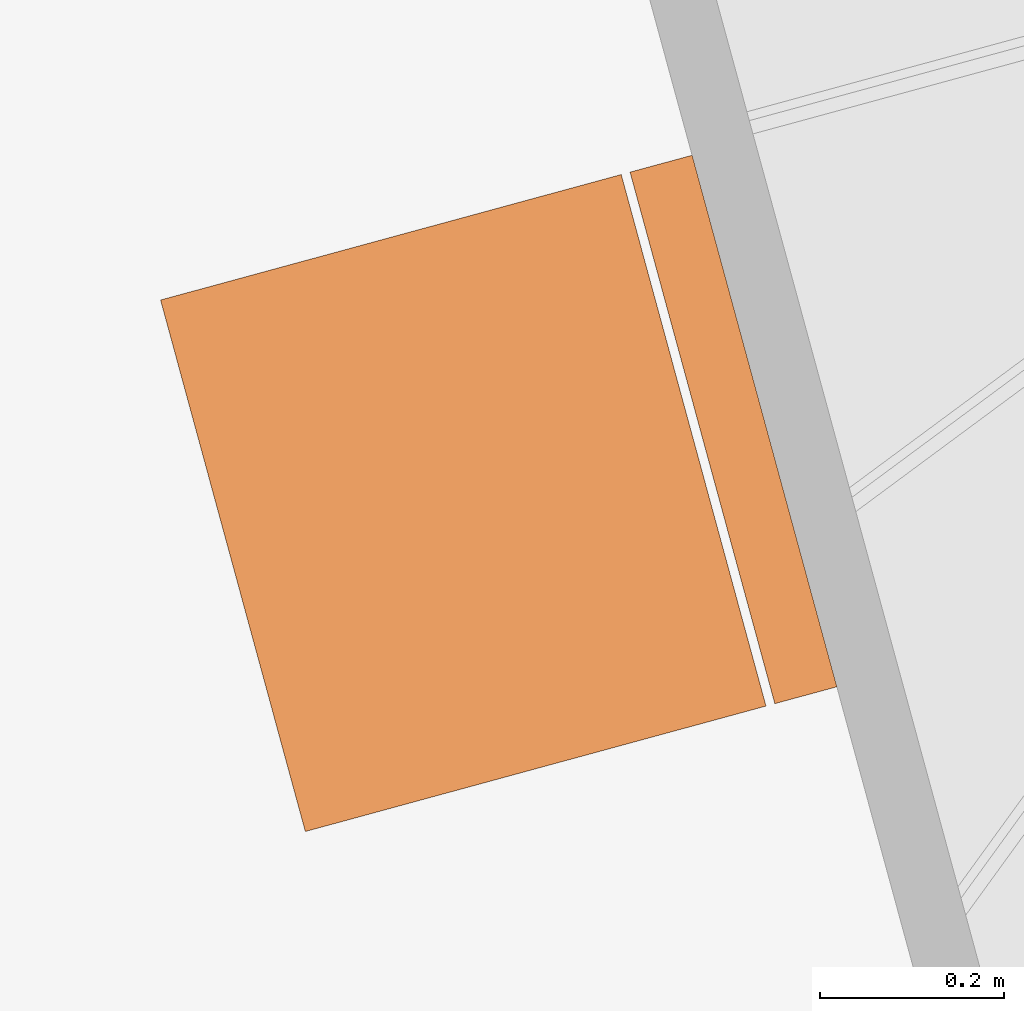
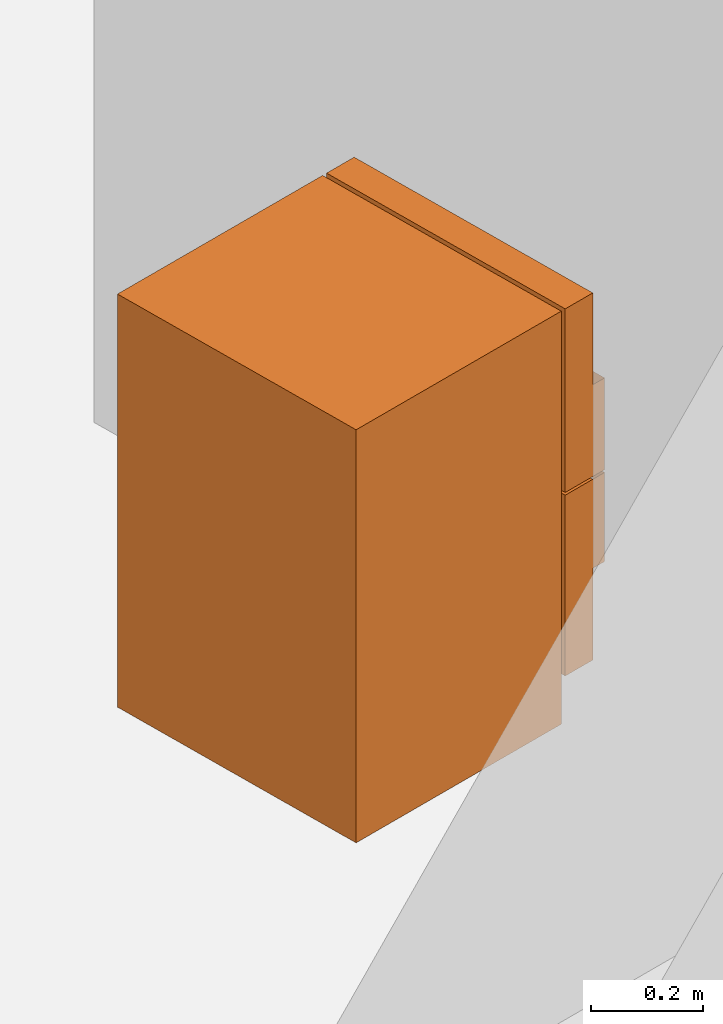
# One storey, part 181 of 195: 1 proxy.
"""IFC2X3 building model written with IfcOpenShell, lengths in metres."""

from ifc_helpers import new_model, entity, si_unit, converted_unit, derived_unit, money_unit, direction, frame, origin_with_axes, place, context, subcontext, project, spatial, open_shell, faceted_brep, surface_model, source, transform, mapped, type_object, element, save


model = new_model("IFC2X3")

# Units and contexts
model_context = context("Model", 3, precision=1e-05, world=origin_with_axes(), true_north=direction((0.0, 1.0)))
body_context = subcontext(model_context, "Body", "Model", "MODEL_VIEW")
ifc_project = project(units=[si_unit("LENGTHUNIT", "METRE"), si_unit("AREAUNIT", "SQUARE_METRE"), si_unit("VOLUMEUNIT", "CUBIC_METRE"), converted_unit("PLANEANGLEUNIT", "DEGREE", entity("IfcPlaneAngleMeasure", 0.0174532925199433), si_unit("PLANEANGLEUNIT", "RADIAN"), dimensions=[0, 0, 0, 0, 0, 0, 0]), money_unit("CHF"), converted_unit("TIMEUNIT", "Year", entity("IfcTimeMeasure", 31557600.0), si_unit("TIMEUNIT", "SECOND"), dimensions=[0, 0, 1, 0, 0, 0, 0]), si_unit("MASSUNIT", "GRAM", prefix="KILO"), si_unit("THERMODYNAMICTEMPERATUREUNIT", "DEGREE_CELSIUS"), si_unit("LUMINOUSINTENSITYUNIT", "LUMEN"), si_unit("ENERGYUNIT", "JOULE", prefix="MEGA"), derived_unit("THERMALCONDUCTANCEUNIT", [(si_unit("POWERUNIT", "WATT"), 1), (si_unit("LENGTHUNIT", "METRE"), -1), (si_unit("THERMODYNAMICTEMPERATUREUNIT", "KELVIN"), -1)]), derived_unit("SPECIFICHEATCAPACITYUNIT", [(si_unit("ENERGYUNIT", "JOULE"), 1), (si_unit("MASSUNIT", "GRAM", prefix="KILO"), -1), (si_unit("THERMODYNAMICTEMPERATUREUNIT", "KELVIN"), -1)]), derived_unit("MASSDENSITYUNIT", [(si_unit("MASSUNIT", "GRAM", prefix="KILO"), 1), (si_unit("VOLUMEUNIT", "CUBIC_METRE"), -1)])], contexts=[model_context])

# Site, building, storey
site_placement = place(None, origin_with_axes())
site = spatial("IfcSite", under=ifc_project, at=site_placement, Name="Site", CompositionType="ELEMENT")
building_placement = place(site_placement, origin_with_axes())
building = spatial("IfcBuilding", under=site, at=building_placement, Name="Bâtiment", CompositionType="ELEMENT")
storey_placement = place(building_placement, origin_with_axes())
storey = spatial("IfcBuildingStorey", under=building, at=storey_placement, Name="rdc", CompositionType="ELEMENT", Elevation=0.0)

# Proxy
building_element_proxy_type = type_object("IfcBuildingElementProxyType", PredefinedType="NOTDEFINED")
shared_shape = source(origin_with_axes(), body_context, "Body", "SurfaceModel", [
    faceted_brep([(0.0, 0.08, 0.1), (0.0, 0.08, 0.9), (-0.6, 0.08, 0.9), (-0.6, 0.08, 0.1), (0.0, 0.6, 0.1), (0.0, 0.6, 0.9), (-0.6, 0.6, 0.9), (-0.6, 0.6, 0.1)], [[[0, 1, 2, 3]], [[4, 5, 1, 0]], [[1, 5, 6, 2]], [[3, 2, 6, 7]], [[0, 3, 7, 4]], [[7, 6, 5, 4]]]),
    faceted_brep([(0.0, 0.08, 0.0), (0.0, 0.08, 0.1), (-0.6, 0.08, 0.1), (-0.6, 0.08, 0.0), (0.0, 0.6, 0.0), (0.0, 0.6, 0.1), (-0.6, 0.6, 0.1), (-0.6, 0.6, 0.0)], [[[0, 1, 2, 3]], [[4, 5, 1, 0]], [[1, 5, 6, 2]], [[3, 2, 6, 7]], [[0, 3, 7, 4]], [[7, 6, 5, 4]]]),
    faceted_brep([(0.0, 0.07, 0.1), (0.0, 0.0, 0.1), (-0.6, 0.0, 0.1), (-0.6, 0.07, 0.1), (0.0, 0.07000000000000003, 0.494), (0.0, 0.0, 0.494), (-0.6, 0.0, 0.494), (-0.6, 0.07000000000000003, 0.494)], [[[0, 1, 2, 3]], [[4, 5, 1, 0]], [[1, 5, 6, 2]], [[3, 2, 6, 7]], [[0, 3, 7, 4]], [[7, 6, 5, 4]]]),
    faceted_brep([(0.0, 0.07, 0.5), (0.0, 0.0, 0.5), (-0.6, 0.0, 0.5), (-0.6, 0.07, 0.5), (0.0, 0.07000000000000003, 0.9), (0.0, 0.0, 0.9), (-0.6, 0.0, 0.9), (-0.6, 0.07000000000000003, 0.9)], [[[0, 1, 2, 3]], [[4, 5, 1, 0]], [[1, 5, 6, 2]], [[3, 2, 6, 7]], [[0, 3, 7, 4]], [[7, 6, 5, 4]]]),
    surface_model("IfcShellBasedSurfaceModel", [(-0.6, -0.03, 0.3), (-0.6, 0.0, 0.3), (-0.6, 0.0, 0.4940000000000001), (-0.6, -0.03, 0.4940000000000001)], [open_shell([[[0, 1, 2, 3]]])]),
    surface_model("IfcShellBasedSurfaceModel", [(-0.6, -0.03, 0.3), (-0.57, -0.03, 0.3), (-0.57, -0.03, 0.4940000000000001), (-0.6, -0.03, 0.4940000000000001)], [open_shell([[[0, 1, 2, 3]]])]),
    surface_model("IfcShellBasedSurfaceModel", [(-0.6, -0.03, 0.5), (-0.6, 0.0, 0.5), (-0.6, 0.0, 0.7), (-0.6, -0.03, 0.7)], [open_shell([[[0, 1, 2, 3]]])]),
    surface_model("IfcShellBasedSurfaceModel", [(-0.6, -0.03, 0.5), (-0.57, -0.03, 0.5), (-0.57, -0.03, 0.7), (-0.6, -0.03, 0.7)], [open_shell([[[0, 1, 2, 3]]])]),
])
proxy_placement = place(storey_placement, frame((9584.270676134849, -1020.14226473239, 57.7), z_axis=(0.0, 0.0, 1.0), x_axis=(-0.2627732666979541, 0.9648576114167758, 0.0)))
element("IfcBuildingElementProxy", 1, at=proxy_placement, inside=storey, type_object=building_element_proxy_type, Name="Obj.-019", context=body_context, shape_type="MappedRepresentation", body=[
    mapped(shared_shape, transform((0.0, 0.0, 0.0))),
])

save(model, "model.ifc")
